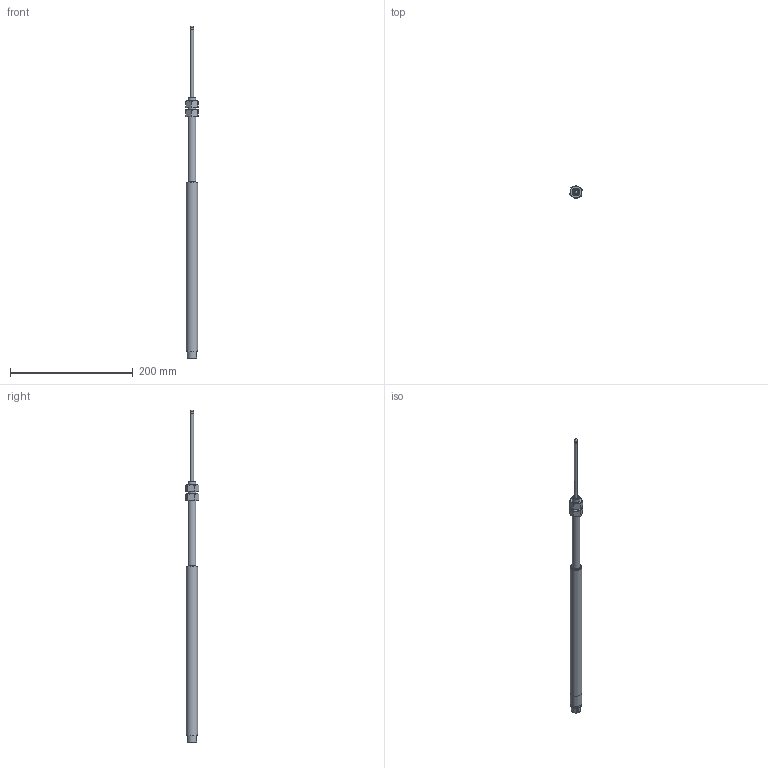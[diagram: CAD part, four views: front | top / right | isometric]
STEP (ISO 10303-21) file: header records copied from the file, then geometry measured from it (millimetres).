
FILE_DESCRIPTION(/* description */ (''),/* implementation_level */ '2;1');
FILE_NAME(/* name */ 'F:\GH SERIES\GH-750-A-XXXX\GH-750-A-2000\GH-750-A-2000 ASS''Y.iam.stp',/* time_stamp */ '2021-11-17T12:39:57-05:00',/* author */ ('Justin'),/* organization */ (''),/* preprocessor_version */ 'ST-DEVELOPER v18.1',/* originating_system */ 'Autodesk Inventor 2022',/* authorisation */ '');
FILE_SCHEMA (('AUTOMOTIVE_DESIGN { 1 0 10303 214 3 1 1 }'));
Length unit declared in the file: inch
Products named in the file (4): GH-750-A-2000 ASS'Y; GH-750-A-2000 HOUSING_SW; GH-750-A-2000 SHAFT_SW; AS 2465 - 1/2  UNF
Assembly tree (4 placements, depth 2):
  GH-750-A-2000 ASS'Y
    GH-750-A-2000 HOUSING_SW
    GH-750-A-2000 SHAFT_SW
    AS 2465 - 1/2  UNF  x2
Bounding box: 20.22 x 21.84 x 541.43 mm (x, y, z)
Volume: 48594.6 mm3; surface area: 50972.6 mm2
Topology: 12 solids, 12 shells, 172 faces, 341 edges, 214 vertices
Faces by surface type: plane 69, cylinder 53, cone 44, torus 4, bspline 1, sphere 1
Full cylindrical faces by diameter (mm): 0.762 x12, 2.845 x3, 4.826 x2, 5.334 x4, 5.397 x1, 7.671 x2, 7.874 x1, 11.328 x2, 12.7 x1, 13.208 x1, 14.986 x1, 15.748 x2, 16.51 x1, 17.069 x1, 18.034 x1, 18.415 x3, 19.05 x1
Entity records: 4304 total; most frequent: CARTESIAN_POINT 814, DIRECTION 730, ORIENTED_EDGE 578, AXIS2_PLACEMENT_3D 309, EDGE_CURVE 289, EDGE_LOOP 186, VERTEX_POINT 185, CIRCLE 153
